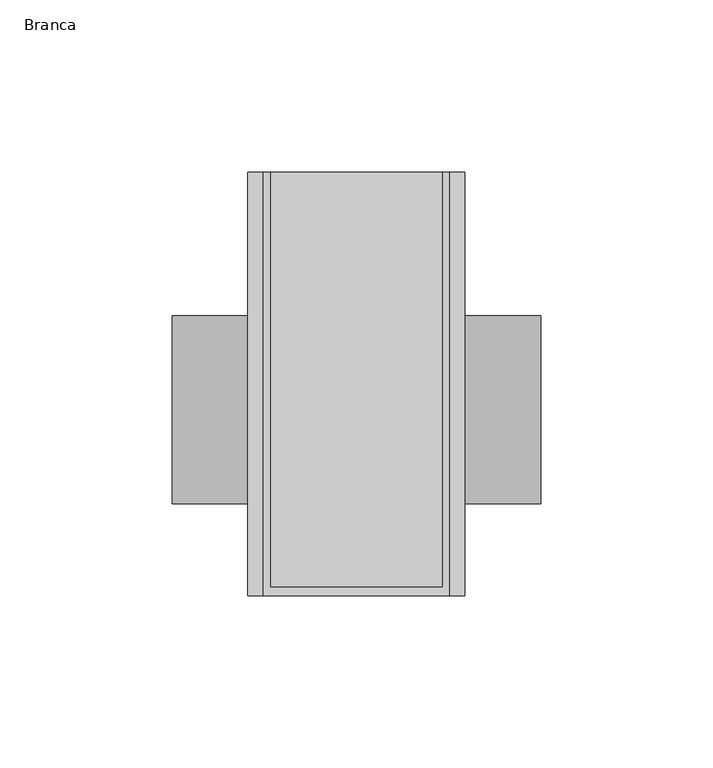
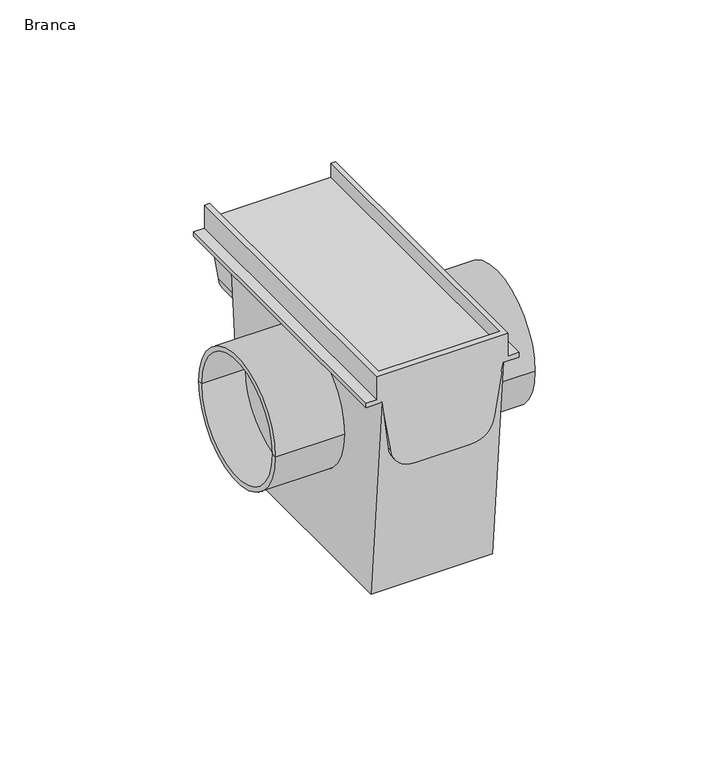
"""IFC4 building model written with IfcOpenShell, lengths in millimetres: pipe fitting geometry, AmancoWavin_Unionesdetubería_SilentiumZNoUsarDesagüeLinealTerminal : Branca."""

from ifc_helpers import new_model, si_unit, frame, origin, place, context, project, spatial, polyline, circle_curve, ellipse_curve, source, transform, mapped, element, save
from ifc_brep_helpers import plane_surface, cylinder_surface, revolved_surface, advanced_brep


def branca_807ca2a1(model_context):
    return source(origin(), model_context, "Body", "AdvancedBrep", [
        advanced_brep(
        [(-53.5, -25.35, 0.0), (-53.5, 25.35, 0.0), (-53.5, 27.3, 0.0), (-53.5, -27.3, 0.0), (-35.5, -25.35, 0.0), (-35.5, 25.35, 0.0), (-35.5, 0.0, 0.0), (35.5, -25.35, 0.0), (35.5, 25.35, 0.0), (35.5, 0.0, 0.0), (53.5, -25.35, 0.0), (53.5, 25.35, 0.0), (53.5, -27.3, 0.0), (53.5, 27.3, 0.0), (-25.0, 27.3, 0.0), (-25.0, -27.3, 0.0), (25.0, -27.3, 0.0), (25.0, 27.3, 0.0), (25.0, -54.0, 30.0), (25.0, -46.3009976, -58.0), (25.0, 46.3009976, -58.0), (25.0, 54.0, 30.0), (-25.0, 54.0, 30.0), (-25.0, 46.3009976, -58.0), (-25.0, -46.3009976, -58.0), (-25.0, -54.0, 30.0), (21.3121214, -52.0719341, 7.9621064), (11.5480068, -51.2878514, -1.0), (-11.5480068, -51.2878514, -1.0), (-21.3121214, -52.0719341, 7.9621064), (-21.3121214, 52.0719341, 7.9621064), (-11.5480068, 51.2878514, -1.0), (11.5480068, 51.2878514, -1.0), (21.3121214, 52.0719341, 7.9621064), (31.5, -54.0, 30.0), (31.5, -54.0, 32.0), (27.0, -54.0, 32.0), (27.0, -54.0, 42.0), (-27.0, -54.0, 42.0), (-27.0, -54.0, 32.0), (-31.5, -54.0, 32.0), (-31.5, -54.0, 30.0), (-21.3121214, -54.0, 7.9621064), (-11.5480068, -54.0, -1.0), (11.5480068, -54.0, -1.0), (21.3121214, -54.0, 7.9621064), (-31.5, 69.0, 30.0), (-31.5, 69.0, 32.0), (-27.0, 69.0, 32.0), (-27.0, 69.0, 42.0), (-25.0, 69.0, 42.0), (-25.0, 69.0, 35.8), (25.0, 69.0, 35.8), (25.0, 69.0, 42.0), (27.0, 69.0, 42.0), (27.0, 69.0, 32.0), (31.5, 69.0, 32.0), (31.5, 69.0, 30.0), (25.0, 69.0, 30.0), (21.3121214, 69.0, 7.9621064), (11.5480068, 69.0, -1.0), (-11.5480068, 69.0, -1.0), (-21.3121214, 69.0, 7.9621064), (-25.0, 69.0, 30.0), (25.0, -51.5, 42.0), (-25.0, -51.5, 42.0), (25.0, -51.5, 35.8), (-25.0, -51.5, 35.8)],
        [
            (0, 1, circle_curve(frame((-53.5, 0.0, 0.0), z_axis=(1.0, 0.0, 0.0), x_axis=(0.0, 1.0, 0.0)), 25.35)),
            (1, 2),
            (2, 3, circle_curve(frame((-53.5, 0.0, 0.0), z_axis=(-1.0, 0.0, 0.0), x_axis=(0.0, 1.0, 0.0)), 27.3)),
            (3, 0),
            (1, 0, circle_curve(frame((-53.5, 0.0, 0.0), z_axis=(1.0, 0.0, 0.0), x_axis=(0.0, 1.0, 0.0)), 25.35)),
            (3, 2, circle_curve(frame((-53.5, 0.0, 0.0), z_axis=(-1.0, 0.0, 0.0), x_axis=(0.0, 1.0, 0.0)), 27.3)),
            (0, 4),
            (4, 5, circle_curve(frame((-35.5, 0.0, 0.0), z_axis=(1.0, 0.0, 0.0), x_axis=(0.0, 1.0, 0.0)), 25.35)),
            (5, 1),
            (5, 4, circle_curve(frame((-35.5, 0.0, 0.0), z_axis=(1.0, 0.0, 0.0), x_axis=(0.0, 1.0, 0.0)), 25.35)),
            (4, 6),
            (6, 5),
            (7, 8, circle_curve(frame((35.5, 0.0, 0.0), z_axis=(1.0, 0.0, 0.0), x_axis=(0.0, 1.0, 0.0)), 25.35)),
            (8, 9),
            (9, 7),
            (8, 7, circle_curve(frame((35.5, 0.0, 0.0), z_axis=(1.0, 0.0, 0.0), x_axis=(0.0, 1.0, 0.0)), 25.35)),
            (7, 10),
            (10, 11, circle_curve(frame((53.5, 0.0, 0.0), z_axis=(1.0, 0.0, 0.0), x_axis=(0.0, 1.0, 0.0)), 25.35)),
            (11, 8),
            (11, 10, circle_curve(frame((53.5, 0.0, 0.0), z_axis=(1.0, 0.0, 0.0), x_axis=(0.0, 1.0, 0.0)), 25.35)),
            (10, 12),
            (12, 13, circle_curve(frame((53.5, 0.0, 0.0), z_axis=(1.0, 0.0, 0.0), x_axis=(0.0, 1.0, 0.0)), 27.3)),
            (13, 11),
            (13, 12, circle_curve(frame((53.5, 0.0, 0.0), z_axis=(1.0, 0.0, 0.0), x_axis=(0.0, 1.0, 0.0)), 27.3)),
            (2, 14),
            (14, 15, circle_curve(frame((-25.0, 0.0, 0.0), z_axis=(-1.0, 0.0, 0.0), x_axis=(0.0, 1.0, 0.0)), 27.3)),
            (15, 3),
            (12, 16),
            (16, 17, circle_curve(frame((25.0, 0.0, 0.0), z_axis=(1.0, 0.0, 0.0), x_axis=(0.0, 1.0, 0.0)), 27.3)),
            (17, 13),
            (15, 14, circle_curve(frame((-25.0, 0.0, 0.0), z_axis=(-1.0, 0.0, 0.0), x_axis=(0.0, 1.0, 0.0)), 27.3)),
            (17, 16, circle_curve(frame((25.0, 0.0, 0.0), z_axis=(1.0, 0.0, 0.0), x_axis=(0.0, 1.0, 0.0)), 27.3)),
            (18, 19),
            (19, 20),
            (20, 21),
            (21, 18),
            (22, 23),
            (23, 24),
            (24, 25),
            (25, 22),
            (18, 26),
            (26, 27, ellipse_curve(frame((11.5480068, -52.1452403, 8.8), z_axis=(0.0, 0.9961946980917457, 0.08715574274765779), x_axis=(0.0, -0.08715574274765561, 0.9961946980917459)), 9.8374344, 9.8)),
            (27, 28),
            (28, 29, ellipse_curve(frame((-11.5480068, -52.1452403, 8.8), z_axis=(0.0, 0.9961946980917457, 0.08715574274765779), x_axis=(0.0, -0.08715574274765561, 0.9961946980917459)), 9.8374344, 9.8)),
            (29, 25),
            (24, 19),
            (23, 20),
            (22, 30),
            (30, 31, ellipse_curve(frame((-11.5480068, 52.1452403, 8.8), z_axis=(0.0, -0.9961946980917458, 0.08715574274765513), x_axis=(0.0, -0.08715574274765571, -0.9961946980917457)), 9.8374344, 9.8)),
            (31, 32),
            (32, 33, ellipse_curve(frame((11.5480068, 52.1452403, 8.8), z_axis=(0.0, -0.9961946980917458, 0.08715574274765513), x_axis=(0.0, -0.08715574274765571, -0.9961946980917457)), 9.8374344, 9.8)),
            (33, 21),
            (34, 35),
            (35, 36),
            (36, 37),
            (37, 38),
            (38, 39),
            (39, 40),
            (40, 41),
            (41, 25),
            (25, 42),
            (42, 43, circle_curve(frame((-11.5480068, -54.0, 8.8), z_axis=(0.0, -1.0, 0.0), x_axis=(1.0, 0.0, 0.0)), 9.8)),
            (43, 44),
            (44, 45, circle_curve(frame((11.5480068, -54.0, 8.8), z_axis=(0.0, -1.0, 0.0), x_axis=(1.0, 0.0, 0.0)), 9.8)),
            (45, 18),
            (18, 34),
            (46, 47),
            (47, 48),
            (48, 49),
            (49, 50),
            (50, 51),
            (51, 52),
            (52, 53),
            (53, 54),
            (54, 55),
            (55, 56),
            (56, 57),
            (57, 58),
            (58, 59),
            (59, 60, circle_curve(frame((11.5480068, 69.0, 8.8), z_axis=(0.0, 1.0, 0.0), x_axis=(1.0, 0.0, 0.0)), 9.8)),
            (60, 61),
            (61, 62, circle_curve(frame((-11.5480068, 69.0, 8.8), z_axis=(0.0, 1.0, 0.0), x_axis=(1.0, 0.0, 0.0)), 9.8)),
            (62, 63),
            (63, 46),
            (41, 46),
            (63, 22),
            (57, 34),
            (21, 58),
            (56, 35),
            (55, 36),
            (54, 37),
            (49, 38),
            (53, 64),
            (64, 65),
            (65, 50),
            (52, 66),
            (66, 64),
            (51, 67),
            (67, 66),
            (65, 67),
            (48, 39),
            (47, 40),
            (29, 42),
            (62, 30),
            (43, 28),
            (27, 44),
            (60, 32),
            (31, 61),
            (45, 26),
            (33, 59),
        ],
        [
            plane_surface(frame((-53.5, 0.0, 0.0), z_axis=(-1.0, 0.0, 0.0), x_axis=(0.0, 1.0, 0.0))),
            revolved_surface(polyline([(-53.5, 25.35, 0.0), (-35.5, 25.35, 0.0)]), (2000.0, 0.0, 0.0), (-1.0, 0.0, 0.0)),
            plane_surface(frame((-35.5, 0.0, 0.0), z_axis=(-1.0, 0.0, 0.0), x_axis=(0.0, 1.0, 0.0))),
            plane_surface(frame((35.5, 0.0, 0.0), z_axis=(1.0, 0.0, 0.0), x_axis=(0.0, 1.0, 0.0))),
            revolved_surface(polyline([(35.5, 25.35, 0.0), (53.5, 25.35, 0.0)]), (2000.0, 0.0, 0.0), (-1.0, 0.0, 0.0)),
            plane_surface(frame((53.5, 0.0, 0.0), z_axis=(1.0, 0.0, 0.0), x_axis=(0.0, 1.0, 0.0))),
            cylinder_surface(frame((2000.0, 0.0, 0.0), z_axis=(-1.0, 0.0, 0.0), x_axis=(0.0, 1.0, 0.0)), 27.3),
            plane_surface(frame((25.0, -54.0, 30.0), z_axis=(1.0000000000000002, 0.0, 0.0), x_axis=(0.0, 0.08715574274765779, -0.9961946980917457))),
            plane_surface(frame((-25.0, -54.0, 30.0), z_axis=(-1.0000000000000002, 0.0, 0.0), x_axis=(0.0, -0.08715574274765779, 0.9961946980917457))),
            plane_surface(frame((25.0, -54.0, 30.0), z_axis=(0.0, -0.9961946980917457, -0.08715574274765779), x_axis=(-1.0, 0.0, 0.0))),
            plane_surface(frame((25.0, -46.3009976, -58.0), z_axis=(0.0, 0.0, -1.0), x_axis=(-1.0, 0.0, 0.0))),
            plane_surface(frame((25.0, 46.3009976, -58.0), z_axis=(0.0, 0.9961946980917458, -0.08715574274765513), x_axis=(-1.0, 0.0, 0.0))),
            plane_surface(frame((31.5, -54.0, 30.0), z_axis=(0.0, -1.0, 0.0), x_axis=(1.0, 0.0, 0.0))),
            plane_surface(frame((31.5, 69.0, 30.0), z_axis=(0.0, 1.0, 0.0), x_axis=(-1.0, 0.0, 0.0))),
            plane_surface(frame((-31.5, -54.0, 30.0), z_axis=(0.0, 0.0, -1.0), x_axis=(0.0, 1.0, 0.0))),
            plane_surface(frame((31.5, -54.0, 30.0), z_axis=(1.0, 0.0, 0.0), x_axis=(0.0, 1.0, 0.0))),
            plane_surface(frame((31.5, -54.0, 32.0), z_axis=(0.0, 0.0, 1.0), x_axis=(0.0, 1.0, 0.0))),
            plane_surface(frame((27.0, -54.0, 32.0), z_axis=(1.0, 0.0, 0.0), x_axis=(0.0, 1.0, 0.0))),
            plane_surface(frame((27.0, -54.0, 42.0), z_axis=(0.0, 0.0, 1.0), x_axis=(0.0, 1.0, 0.0))),
            plane_surface(frame((25.0, -54.0, 42.0), z_axis=(-1.0, 0.0, 0.0), x_axis=(0.0, 1.0, 0.0))),
            plane_surface(frame((25.0, -54.0, 35.8), z_axis=(0.0, 0.0, 1.0), x_axis=(0.0, 1.0, 0.0))),
            plane_surface(frame((-25.0, -54.0, 35.8), z_axis=(1.0, 0.0, 0.0), x_axis=(0.0, 1.0, 0.0))),
            plane_surface(frame((-27.0, -54.0, 42.0), z_axis=(-1.0, 0.0, 0.0), x_axis=(0.0, 1.0, 0.0))),
            plane_surface(frame((-27.0, -54.0, 32.0), z_axis=(0.0, 0.0, 1.0), x_axis=(0.0, 1.0, 0.0))),
            plane_surface(frame((-31.5, -54.0, 32.0), z_axis=(-1.0, 0.0, 0.0), x_axis=(0.0, 1.0, 0.0))),
            plane_surface(frame((-25.0, -54.0, 30.0), z_axis=(-0.9862856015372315, 0.0, -0.16504760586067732), x_axis=(0.0, 1.0, 0.0))),
            plane_surface(frame((-11.5480068, -54.0, -1.0), z_axis=(0.0, 0.0, -1.0), x_axis=(0.0, 1.0, 0.0))),
            plane_surface(frame((21.3121214, -54.0, 7.9621064), z_axis=(0.9862856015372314, 0.0, -0.16504760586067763), x_axis=(0.0, 1.0, 0.0))),
            cylinder_surface(frame((-11.5480068, 69.0, 8.8), z_axis=(0.0, -1.0, 0.0), x_axis=(1.0, 0.0, 0.0)), 9.8),
            cylinder_surface(frame((11.5480068, 69.0, 8.8), z_axis=(0.0, -1.0, 0.0), x_axis=(1.0, 0.0, 0.0)), 9.8),
            plane_surface(frame((-25.0, -51.5, 42.0), z_axis=(0.0, 1.0, 0.0), x_axis=(1.0, 0.0, 0.0))),
        ],
        [
            (0, [[1, 2, 3, 4]]),
            (0, [[-2, 5, -4, 6]]),
            (1, [[-1, 7, 8, 9]]),
            (1, [[-5, -9, 10, -7]]),
            (2, [[-8, 11, 12]]),
            (2, [[-10, -12, -11]]),
            (3, [[13, 14, 15]]),
            (3, [[-14, 16, -15]]),
            (4, [[-13, 17, 18, 19]]),
            (4, [[-16, -19, 20, -17]]),
            (5, [[-18, 21, 22, 23]]),
            (5, [[-20, -23, 24, -21]]),
            (6, [[-3, 25, 26, 27]]),
            (6, [[-22, 28, 29, 30]]),
            (6, [[-6, -27, 31, -25]]),
            (6, [[-24, -30, 32, -28]]),
            (7, [[33, 34, 35, 36], [-29, -32]]),
            (8, [[37, 38, 39, 40], [-26, -31]]),
            (9, [[-33, 41, 42, 43, 44, 45, -39, 46]]),
            (10, [[-34, -46, -38, 47]]),
            (11, [[-35, -47, -37, 48, 49, 50, 51, 52]]),
            (12, [[53, 54, 55, 56, 57, 58, 59, 60, 61, 62, 63, 64, 65, 66]]),
            (13, [[67, 68, 69, 70, 71, 72, 73, 74, 75, 76, 77, 78, 79, 80, 81, 82, 83, 84]]),
            (14, [[85, -84, 86, -40, -60]]),
            (14, [[87, -66, -36, 88, -78]]),
            (15, [[-53, -87, -77, 89]]),
            (16, [[-54, -89, -76, 90]]),
            (17, [[-55, -90, -75, 91]]),
            (18, [[-70, 92, -56, -91, -74, 93, 94, 95]]),
            (19, [[-73, 96, 97, -93]]),
            (20, [[-72, 98, 99, -96]]),
            (21, [[-71, -95, 100, -98]]),
            (22, [[-57, -92, -69, 101]]),
            (23, [[-58, -101, -68, 102]]),
            (24, [[-59, -102, -67, -85]]),
            (25, [[-61, -45, 103]]),
            (25, [[-83, 104, -48, -86]]),
            (26, [[-63, 105, -43, 106]]),
            (26, [[-81, 107, -50, 108]]),
            (27, [[-65, 109, -41]]),
            (27, [[-79, -88, -52, 110]]),
            (28, [[-62, -103, -44, -105]]),
            (28, [[-82, -108, -49, -104]]),
            (29, [[-64, -106, -42, -109]]),
            (29, [[-80, -110, -51, -107]]),
            (30, [[-94, -97, -99, -100]]),
        ],
    ),
    ])


if __name__ == "__main__":
    model = new_model("IFC4")
    model_context = context("Model", 3, world=origin())
    ifc_project = project(units=[si_unit("LENGTHUNIT", "METRE", prefix="MILLI")], contexts=[model_context])
    site = spatial("IfcSite", under=ifc_project)
    building = spatial("IfcBuilding", under=site)
    placement = place(None, origin())
    branca_shape = branca_807ca2a1(model_context)
    element("IfcPipeFitting", 1, ObjectType="AmancoWavin_Unionesdetubería_SilentiumZNoUsarDesagüeLinealTerminal : Branca", at=placement, inside=building, context=model_context, shape_type="MappedRepresentation", body=[
        mapped(branca_shape, transform((0.0, 0.0, 0.0), x_axis=(1.0, 0.0, 0.0), y_axis=(0.0, 1.0, 0.0), z_axis=(0.0, 0.0, 1.0))),
    ])
    save(model, "model.ifc")
